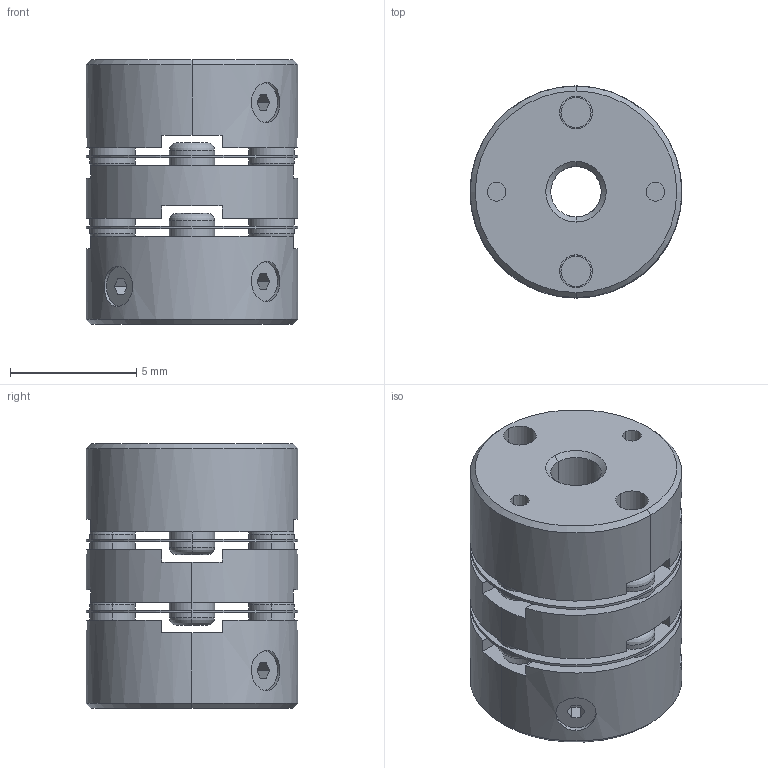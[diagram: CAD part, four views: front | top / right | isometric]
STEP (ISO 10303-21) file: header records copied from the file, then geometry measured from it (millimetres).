
FILE_DESCRIPTION((''),'2;1');
FILE_NAME('LAD-8.4-2×4.stp','2015-10-05T13:42:14',(''),(''),'AutoCAD STEP 2000i','AutoCAD 2000i',', , ');
FILE_SCHEMA(('CONFIG_CONTROL_DESIGN'));
Length unit declared in the file: millimetre
Products named in the file (7): LAD-8.4-2×4; 忣兜1; ﾊﾌﾞφ3-2; ﾊﾌﾞφ3-1; ﾊﾌﾞφ3; SET-M1.6亊2.5; LAD板ﾊﾞﾈ部
Assembly tree (7 placements, depth 2):
  LAD-8.4-2×4
    忣兜1
    ﾊﾌﾞφ3-2
    ﾊﾌﾞφ3-1
    ﾊﾌﾞφ3  x2
    SET-M1.6亊2.5
    LAD板ﾊﾞﾈ部
Bounding box: 8.4 x 8.4 x 10.5 mm (x, y, z)
Volume: 394.7 mm3; surface area: 827.5 mm2
Topology: 1 solids, 1 shells, 178 faces, 452 edges, 313 vertices
Faces by surface type: cylinder 80, plane 74, torus 16, cone 8
Entity records: 5833 total; most frequent: CARTESIAN_POINT 1153, DIRECTION 1025, ORIENTED_EDGE 870, EDGE_CURVE 435, AXIS2_PLACEMENT_3D 410, VERTEX_POINT 284, EDGE_LOOP 229, CIRCLE 224
